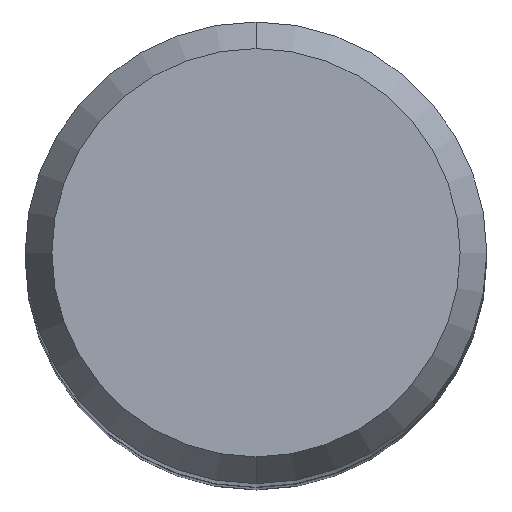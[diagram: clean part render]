
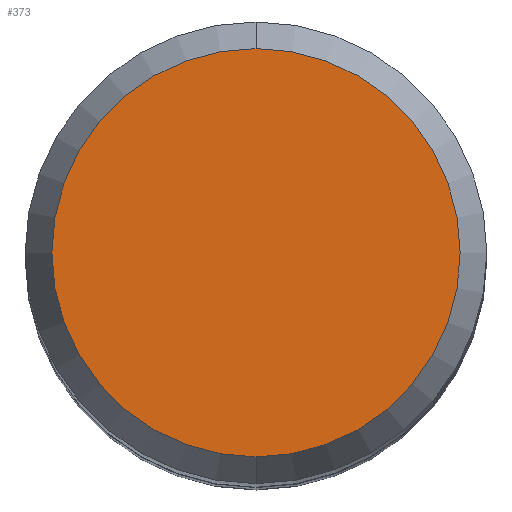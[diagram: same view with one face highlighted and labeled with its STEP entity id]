
A CAD part, top view. The second image highlights one B-rep face of the part: STEP entity #373.
In plain terms, the highlighted planar face has unit normal (0, 0, 1).
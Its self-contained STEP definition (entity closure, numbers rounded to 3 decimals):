
#307=EDGE_CURVE('',#337,#477,#724,.T.);
#337=VERTEX_POINT('',#756);
#373=ADVANCED_FACE('',(#796),#797,.T.);
#477=VERTEX_POINT('',#912);
#571=EDGE_CURVE('',#477,#337,#1016,.T.);
#724=CIRCLE('',#1267,4.423);
#756=CARTESIAN_POINT('',(0.,-4.423,0.0));
#796=FACE_OUTER_BOUND('',#1379,.T.);
#797=PLANE('',#1380);
#912=CARTESIAN_POINT('',(0.0,4.423,0.0));
#1016=CIRCLE('',#1806,4.423);
#1267=AXIS2_PLACEMENT_3D('',#1995,#1996,#1997);
#1379=EDGE_LOOP('',(#2078,#2079));
#1380=AXIS2_PLACEMENT_3D('',#2080,#2081,#2082);
#1806=AXIS2_PLACEMENT_3D('',#2328,#2329,#2330);
#1995=CARTESIAN_POINT('',(0.0,0.0,0.0));
#1996=DIRECTION('',(0.0,0.0,-1.0));
#1997=DIRECTION('',(0.0,1.0,0.0));
#2078=ORIENTED_EDGE('',*,*,#571,.F.);
#2079=ORIENTED_EDGE('',*,*,#307,.F.);
#2080=CARTESIAN_POINT('',(0.0,2.211,0.0));
#2081=DIRECTION('',(-0.0,0.0,1.0));
#2082=DIRECTION('',(0.0,-1.0,0.0));
#2328=CARTESIAN_POINT('',(0.0,0.0,0.0));
#2329=DIRECTION('',(0.0,0.0,-1.0));
#2330=DIRECTION('',(0.0,1.0,0.0));
